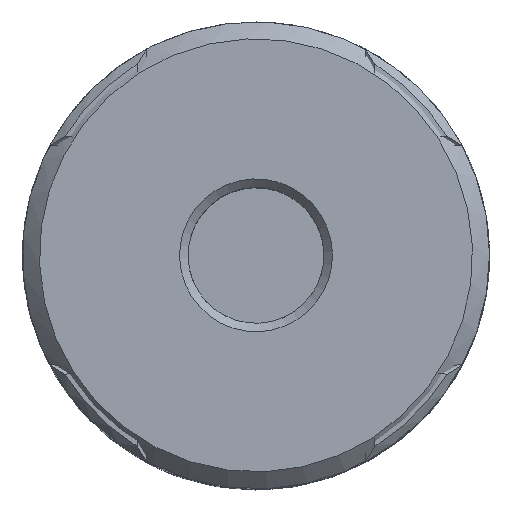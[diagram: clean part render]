
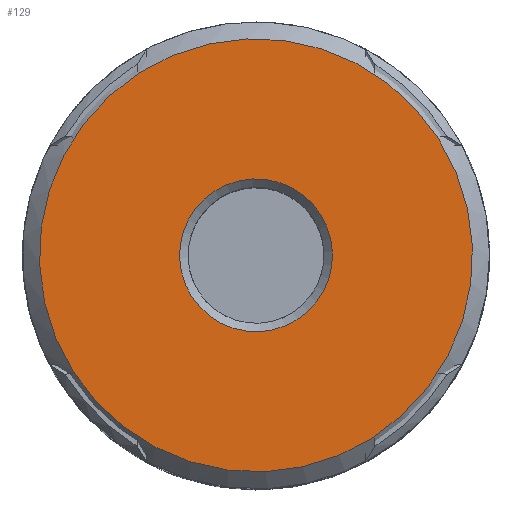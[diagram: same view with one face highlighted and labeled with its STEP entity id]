
A CAD part, top view. The second image highlights one B-rep face of the part: STEP entity #129.
In plain terms, the highlighted planar face has unit normal (0, 0, 1) as drawn and (0, 0, -1) by its records, which use the part's own axes.
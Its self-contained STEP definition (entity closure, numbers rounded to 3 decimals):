
#129 = ADVANCED_FACE( '', ( #281, #282 ), #283, .T. );
#281 = FACE_OUTER_BOUND( '', #469, .T. );
#282 = FACE_BOUND( '', #470, .T. );
#283 = PLANE( '', #471 );
#469 = EDGE_LOOP( '', ( #869 ) );
#470 = EDGE_LOOP( '', ( #870 ) );
#471 = AXIS2_PLACEMENT_3D( '', #871, #872, #873 );
#869 = ORIENTED_EDGE( '', *, *, #1489, .T. );
#870 = ORIENTED_EDGE( '', *, *, #1542, .T. );
#871 = CARTESIAN_POINT( '', ( 0., 0., 0. ) );
#872 = DIRECTION( '', ( 0., 0., -1. ) );
#873 = DIRECTION( '', ( 0., -1., 0. ) );
#1489 = EDGE_CURVE( '', #1968, #1968, #1969, .T. );
#1542 = EDGE_CURVE( '', #2052, #2052, #2053, .F. );
#1968 = VERTEX_POINT( '', #3202 );
#1969 = CIRCLE( '', #3203, 25.5 );
#2052 = VERTEX_POINT( '', #3331 );
#2053 = CIRCLE( '', #3332, 9. );
#3202 = CARTESIAN_POINT( '', ( -25.5, 0., 0. ) );
#3203 = AXIS2_PLACEMENT_3D( '', #3999, #4000, #4001 );
#3331 = CARTESIAN_POINT( '', ( -9., 0., 0. ) );
#3332 = AXIS2_PLACEMENT_3D( '', #4071, #4072, #4073 );
#3999 = CARTESIAN_POINT( '', ( 0., 0., 0. ) );
#4000 = DIRECTION( '', ( 0., 0., -1. ) );
#4001 = DIRECTION( '', ( -1., 0., 0. ) );
#4071 = CARTESIAN_POINT( '', ( 0., 0., 0. ) );
#4072 = DIRECTION( '', ( 0., 0., -1. ) );
#4073 = DIRECTION( '', ( -1., 0., 0. ) );
